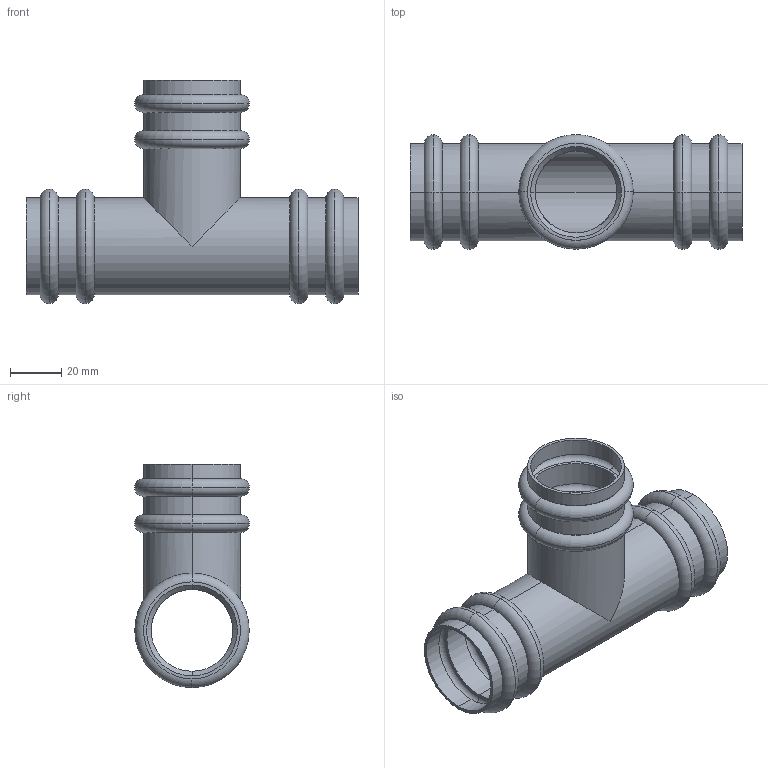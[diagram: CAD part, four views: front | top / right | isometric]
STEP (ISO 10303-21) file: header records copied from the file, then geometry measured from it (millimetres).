
FILE_DESCRIPTION(('starvars output'),'1');
FILE_NAME('cv20240422105025000011632.stp','10:50:26 2024/04/22',('Thomas Industrial Network Germany GmbH'),(' '),'Spatial InterOp 3D',' ',' ');
FILE_SCHEMA(('AUTOMOTIVE_DESIGN { 1 0 10303 214 3 1 1 }'));
Length unit declared in the file: millimetre
Products named in the file (1): 1
Bounding box: 129 x 44.5 x 86.75 mm (x, y, z)
Volume: 37799.7 mm3; surface area: 47055 mm2
Topology: 1 solids, 1 shells, 119 faces, 246 edges, 152 vertices
Faces by surface type: torus 48, cylinder 38, plane 27, cone 6
Entity records: 4216 total; most frequent: DIRECTION 686, CARTESIAN_POINT 518, ORIENTED_EDGE 492, AXIS2_PLACEMENT_3D 320, EDGE_CURVE 246, CIRCLE 192, VERTEX_POINT 152, EDGE_LOOP 146
